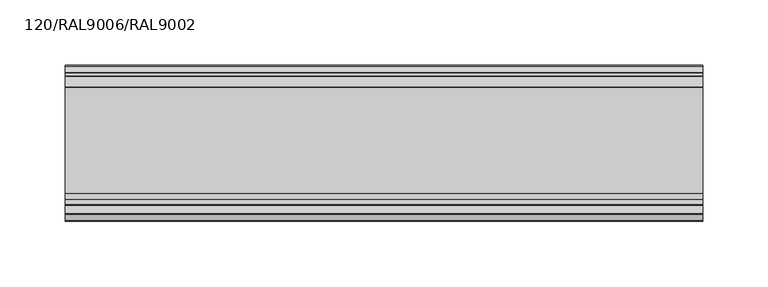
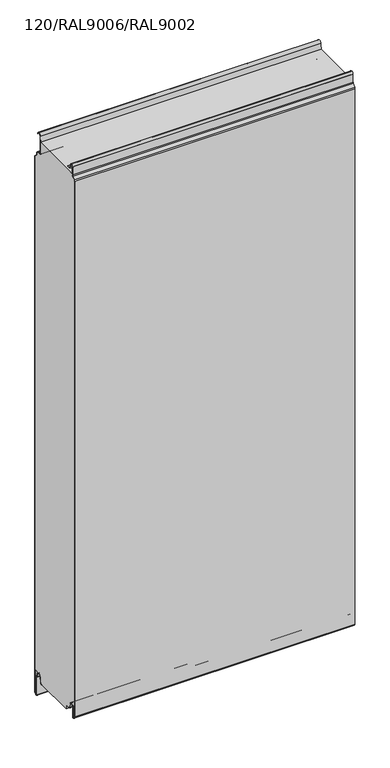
"""IFC4 building model written with IfcOpenShell, lengths in millimetres: plate geometry, TR_C_H_FHL_Panel : 120/RAL9006/RAL9002."""

from ifc_helpers import new_model, si_unit, point, frame, frame_2d, origin, place, context, project, spatial, polyline, circle_curve, trimmed, segment, composite_curve, outline, extrude, source, transform, mapped, element, save


def plate_120_ral9006_ral9002_c30a51ce(model_context):
    return source(origin(), model_context, "Body", "SweptSolid", [
        extrude(outline(composite_curve([segment(polyline([(-17.4455763, 1000.0), (-17.6, 998.2349288), (-17.6, 979.1)]), True, "CONTINUOUS"), segment(trimmed(circle_curve(frame_2d((-14.8, 979.1)), 2.8), [point((-17.6, 979.1))], [point((-14.8, 976.3))], True, "CARTESIAN"), True, "CONTINUOUS"), segment(polyline([(-14.8, 976.3), (-8.9, 976.3)]), True, "CONTINUOUS"), segment(trimmed(circle_curve(frame_2d((-8.9, 974.4)), 1.9), [point((-8.9, 976.3))], [point((-7.0, 974.4))], False, "CARTESIAN"), True, "CONTINUOUS"), segment(polyline([(-7.0, 974.4), (-7.0, 971.5838835)]), True, "CONTINUOUS"), segment(trimmed(circle_curve(frame_2d((-4.2, 971.5838835)), 2.8), [point((-7.0, 971.5838835))], [point((-6.179899, 969.6039845))], True, "CARTESIAN"), True, "CONTINUOUS"), segment(polyline([(-6.179899, 969.6039845), (-1.3564971, 964.7805826)]), True, "CONTINUOUS"), segment(trimmed(circle_curve(frame_2d((-2.7, 963.4370797)), 1.9), [point((-1.3564971, 964.7805826))], [point((-0.8, 963.4370797))], False, "CARTESIAN"), True, "CONTINUOUS"), segment(polyline([(-0.8, 963.4370797), (-0.8, 15.9993484), (-12.3520294, 15.9993484)]), True, "CONTINUOUS"), segment(trimmed(circle_curve(frame_2d((-12.3520294, 11.0993484)), 4.9), [point((-12.3520294, 15.9993484))], [point((-17.2333835, 11.5264116))], True, "CARTESIAN"), True, "CONTINUOUS"), segment(polyline([(-17.2333835, 11.5264116), (-18.0972969, 1.6518352)]), True, "CONTINUOUS"), segment(trimmed(circle_curve(frame_2d((-19.7908279, 1.8)), 1.7), [point((-18.0972969, 1.6518352))], [point((-19.7908279, 0.1))], False, "CARTESIAN"), True, "CONTINUOUS"), segment(polyline([(-19.7908279, 0.1), (-20.8, 0.0), (-94.86, 0.0), (-94.86, 7.9), (-102.3925589, 7.9)]), True, "CONTINUOUS"), segment(trimmed(circle_curve(frame_2d((-102.3925589, 10.85)), 2.95), [point((-102.3925589, 7.9))], [point((-105.2977418, 10.3377379))], False, "CARTESIAN"), True, "CONTINUOUS"), segment(polyline([(-105.2977418, 10.3377379), (-106.364567, 16.3880048)]), True, "CONTINUOUS"), segment(trimmed(circle_curve(frame_2d((-110.55, 15.65)), 4.25), [point((-106.364567, 16.3880048))], [point((-110.55, 19.9))], True, "CARTESIAN"), True, "CONTINUOUS"), segment(polyline([(-110.55, 19.9), (-119.2, 19.9), (-119.2, 989.8218254)]), True, "CONTINUOUS"), segment(trimmed(circle_curve(frame_2d((-117.0, 989.8218254)), 2.2), [point((-119.2, 989.8218254))], [point((-118.5556349, 991.3774603))], False, "CARTESIAN"), True, "CONTINUOUS"), segment(polyline([(-118.5556349, 991.3774603), (-114.1665476, 995.7665476)]), True, "CONTINUOUS"), segment(trimmed(circle_curve(frame_2d((-116.5, 998.1)), 3.3), [point((-114.1665476, 995.7665476))], [point((-113.2, 998.1))], True, "CARTESIAN"), True, "CONTINUOUS"), segment(polyline([(-113.2, 998.1), (-113.2, 1000.0), (-17.4455763, 1000.0)]), True, "CONTINUOUS")], self_intersect=False)), frame((-245.0, 0.0, 0.0), z_axis=(1.0, 0.0, 0.0), x_axis=(0.0, 1.0, 0.0)), (0.0, 0.0, 1.0), 490.0),
        extrude(outline(composite_curve([segment(polyline([(-0.8, -25.1006169), (-0.8, 963.4370797)]), True, "CONTINUOUS"), segment(trimmed(circle_curve(frame_2d((-2.7, 963.4370797)), 1.9), [point((-0.8, 963.4370797))], [point((-1.3564971, 964.7805826))], True, "CARTESIAN"), True, "CONTINUOUS"), segment(polyline([(-1.3564971, 964.7805826), (-6.179899, 969.6039845)]), True, "CONTINUOUS"), segment(trimmed(circle_curve(frame_2d((-4.2, 971.5838835)), 2.8), [point((-6.179899, 969.6039845))], [point((-7.0, 971.5838835))], False, "CARTESIAN"), True, "CONTINUOUS"), segment(polyline([(-7.0, 971.5838835), (-7.0, 974.4)]), True, "CONTINUOUS"), segment(trimmed(circle_curve(frame_2d((-8.9, 974.4)), 1.9), [point((-7.0, 974.4))], [point((-8.9, 976.3))], True, "CARTESIAN"), True, "CONTINUOUS"), segment(polyline([(-8.9, 976.3), (-14.8, 976.3)]), True, "CONTINUOUS"), segment(trimmed(circle_curve(frame_2d((-14.8, 979.1)), 2.8), [point((-14.8, 976.3))], [point((-17.6, 979.1))], False, "CARTESIAN"), True, "CONTINUOUS"), segment(polyline([(-17.6, 979.1), (-17.6, 998.2349288), (-16.5051936, 1010.748623)]), True, "CONTINUOUS"), segment(trimmed(circle_curve(frame_2d((-12.5204148, 1010.4)), 4.0), [point((-16.5051936, 1010.748623))], [point((-8.7383405, 1011.7022726))], False, "CARTESIAN"), True, "CONTINUOUS"), segment(polyline([(-8.7383405, 1011.7022726), (-8.4287263, 1010.8030877), (-9.1851412, 1010.5426332), (-9.4947554, 1011.4418181)]), True, "CONTINUOUS"), segment(trimmed(circle_curve(frame_2d((-12.5204148, 1010.4)), 3.2), [point((-9.4947554, 1011.4418181))], [point((-15.7082379, 1010.6788984))], True, "CARTESIAN"), True, "CONTINUOUS"), segment(polyline([(-15.7082379, 1010.6788984), (-16.8, 998.2), (-16.8, 979.1)]), True, "CONTINUOUS"), segment(trimmed(circle_curve(frame_2d((-14.8, 979.1)), 2.0), [point((-16.8, 979.1))], [point((-14.8, 977.1))], True, "CARTESIAN"), True, "CONTINUOUS"), segment(polyline([(-14.8, 977.1), (-8.9, 977.1)]), True, "CONTINUOUS"), segment(trimmed(circle_curve(frame_2d((-8.9, 974.4)), 2.7), [point((-8.9, 977.1))], [point((-6.2, 974.4))], False, "CARTESIAN"), True, "CONTINUOUS"), segment(polyline([(-6.2, 974.4), (-6.2, 971.5838835)]), True, "CONTINUOUS"), segment(trimmed(circle_curve(frame_2d((-4.2, 971.5838835)), 2.0), [point((-6.2, 971.5838835))], [point((-5.6142136, 970.1696699))], True, "CARTESIAN"), True, "CONTINUOUS"), segment(polyline([(-5.6142136, 970.1696699), (-0.7908117, 965.346268)]), True, "CONTINUOUS"), segment(trimmed(circle_curve(frame_2d((-2.7, 963.4370797)), 2.7), [point((-0.7908117, 965.346268))], [point((0.0, 963.4370797))], False, "CARTESIAN"), True, "CONTINUOUS"), segment(polyline([(0.0, 963.4370797), (0.0, -25.1006169)]), True, "CONTINUOUS"), segment(trimmed(circle_curve(frame_2d((-2.7, -25.1006169)), 2.7), [point((0.0, -25.1006169))], [point((-0.8586044, -27.0752719))], False, "CARTESIAN"), True, "CONTINUOUS"), segment(polyline([(-0.8586044, -27.0752719), (-2.8042031, -28.889572)]), True, "CONTINUOUS"), segment(trimmed(circle_curve(frame_2d((-4.1, -27.5)), 1.9), [point((-2.8042031, -28.889572))], [point((-6.0, -27.5))], False, "CARTESIAN"), True, "CONTINUOUS"), segment(polyline([(-6.0, -27.5), (-6.0, 4.8267282)]), True, "CONTINUOUS"), segment(trimmed(circle_curve(frame_2d((-8.5, 4.8267282)), 2.5), [point((-6.0, 4.8267282))], [point((-6.1362036, 5.6406486))], True, "CARTESIAN"), True, "CONTINUOUS"), segment(polyline([(-6.1362036, 5.6406486), (-8.4754033, 12.4341779)]), True, "CONTINUOUS"), segment(trimmed(circle_curve(frame_2d((-12.3520294, 11.0993484)), 4.1), [point((-8.4754033, 12.4341779))], [point((-16.4364277, 11.456687))], True, "CARTESIAN"), True, "CONTINUOUS"), segment(polyline([(-16.4364277, 11.456687), (-17.3003412, 1.5821106)]), True, "CONTINUOUS"), segment(trimmed(circle_curve(frame_2d((-19.7908279, 1.8)), 2.5), [point((-17.3003412, 1.5821106))], [point((-19.7908279, -0.7))], False, "CARTESIAN"), True, "CONTINUOUS"), segment(polyline([(-19.7908279, -0.7), (-20.8, -0.7), (-20.8, 0.1), (-19.7908279, 0.1)]), True, "CONTINUOUS"), segment(trimmed(circle_curve(frame_2d((-19.7908279, 1.8)), 1.7), [point((-19.7908279, 0.1))], [point((-18.0972969, 1.6518352))], True, "CARTESIAN"), True, "CONTINUOUS"), segment(polyline([(-18.0972969, 1.6518352), (-17.2333835, 11.5264116)]), True, "CONTINUOUS"), segment(trimmed(circle_curve(frame_2d((-12.3520294, 11.0993484)), 4.9), [point((-17.2333835, 11.5264116))], [point((-7.7189884, 12.6946324))], False, "CARTESIAN"), True, "CONTINUOUS"), segment(polyline([(-7.7189884, 12.6946324), (-5.3797887, 5.9011031)]), True, "CONTINUOUS"), segment(trimmed(circle_curve(frame_2d((-8.5, 4.8267282)), 3.3), [point((-5.3797887, 5.9011031))], [point((-5.2, 4.8267282))], False, "CARTESIAN"), True, "CONTINUOUS"), segment(polyline([(-5.2, 4.8267282), (-5.2, -27.5)]), True, "CONTINUOUS"), segment(trimmed(circle_curve(frame_2d((-4.1, -27.5)), 1.1), [point((-5.2, -27.5))], [point((-3.3498018, -28.3044891))], True, "CARTESIAN"), True, "CONTINUOUS"), segment(polyline([(-3.3498018, -28.3044891), (-1.4042031, -26.4901889)]), True, "CONTINUOUS"), segment(trimmed(circle_curve(frame_2d((-2.7, -25.1006169)), 1.9), [point((-1.4042031, -26.4901889))], [point((-0.8, -25.1006169))], True, "CARTESIAN"), True, "CONTINUOUS")], self_intersect=False)), frame((-245.0, 0.0, 0.0), z_axis=(1.0, 0.0, 0.0), x_axis=(0.0, 1.0, 0.0)), (0.0, 0.0, 1.0), 490.0),
        extrude(outline(composite_curve([segment(polyline([(-99.0, 7.1), (-102.3925589, 7.1)]), True, "CONTINUOUS"), segment(trimmed(circle_curve(frame_2d((-102.3925589, 10.85)), 3.75), [point((-102.3925589, 7.1))], [point((-106.085588, 10.1988193))], False, "CARTESIAN"), True, "CONTINUOUS"), segment(polyline([(-106.085588, 10.1988193), (-107.1524133, 16.2490862)]), True, "CONTINUOUS"), segment(trimmed(circle_curve(frame_2d((-110.55, 15.65)), 3.45), [point((-107.1524133, 16.2490862))], [point((-114.0, 15.65))], True, "CARTESIAN"), True, "CONTINUOUS"), segment(polyline([(-114.0, 15.65), (-114.0, -1.95)]), True, "CONTINUOUS"), segment(trimmed(circle_curve(frame_2d((-115.95, -1.95)), 1.95), [point((-114.0, -1.95))], [point((-117.3288582, -3.3288582))], False, "CARTESIAN"), True, "CONTINUOUS"), segment(polyline([(-117.3288582, -3.3288582), (-119.1945436, -1.4631728)]), True, "CONTINUOUS"), segment(trimmed(circle_curve(frame_2d((-117.25, 0.4813708)), 2.75), [point((-119.1945436, -1.4631728))], [point((-120.0, 0.4813708))], False, "CARTESIAN"), True, "CONTINUOUS"), segment(polyline([(-120.0, 0.4813708), (-120.0, 989.8218254)]), True, "CONTINUOUS"), segment(trimmed(circle_curve(frame_2d((-117.0, 989.8218254)), 3.0), [point((-120.0, 989.8218254))], [point((-119.1213203, 991.9431458))], False, "CARTESIAN"), True, "CONTINUOUS"), segment(polyline([(-119.1213203, 991.9431458), (-114.732233, 996.332233)]), True, "CONTINUOUS"), segment(trimmed(circle_curve(frame_2d((-116.5, 998.1)), 2.5), [point((-114.732233, 996.332233))], [point((-114.0, 998.1))], True, "CARTESIAN"), True, "CONTINUOUS"), segment(polyline([(-114.0, 998.1), (-114.0, 1012.85)]), True, "CONTINUOUS"), segment(trimmed(circle_curve(frame_2d((-110.75, 1012.85)), 3.25), [point((-114.0, 1012.85))], [point((-107.5493748, 1013.4143566))], False, "CARTESIAN"), True, "CONTINUOUS"), segment(polyline([(-107.5493748, 1013.4143566), (-106.8060618, 1009.1988193)]), True, "CONTINUOUS"), segment(trimmed(circle_curve(frame_2d((-103.1130328, 1009.85)), 3.75), [point((-106.8060618, 1009.1988193))], [point((-103.1130328, 1006.1))], True, "CARTESIAN"), True, "CONTINUOUS"), segment(polyline([(-103.1130328, 1006.1), (-99.0, 1006.1), (-99.0, 1005.3), (-103.1130328, 1005.3)]), True, "CONTINUOUS"), segment(trimmed(circle_curve(frame_2d((-103.1130328, 1009.85)), 4.55), [point((-103.1130328, 1005.3))], [point((-107.5939081, 1009.0599008))], False, "CARTESIAN"), True, "CONTINUOUS"), segment(polyline([(-107.5939081, 1009.0599008), (-108.337221, 1013.275438)]), True, "CONTINUOUS"), segment(trimmed(circle_curve(frame_2d((-110.75, 1012.85)), 2.45), [point((-108.337221, 1013.275438))], [point((-113.2, 1012.85))], True, "CARTESIAN"), True, "CONTINUOUS"), segment(polyline([(-113.2, 1012.85), (-113.2, 998.1)]), True, "CONTINUOUS"), segment(trimmed(circle_curve(frame_2d((-116.5, 998.1)), 3.3), [point((-113.2, 998.1))], [point((-114.1665476, 995.7665476))], False, "CARTESIAN"), True, "CONTINUOUS"), segment(polyline([(-114.1665476, 995.7665476), (-118.5556349, 991.3774603)]), True, "CONTINUOUS"), segment(trimmed(circle_curve(frame_2d((-117.0, 989.8218254)), 2.2), [point((-118.5556349, 991.3774603))], [point((-119.2, 989.8218254))], True, "CARTESIAN"), True, "CONTINUOUS"), segment(polyline([(-119.2, 989.8218254), (-119.2, 0.4813708)]), True, "CONTINUOUS"), segment(trimmed(circle_curve(frame_2d((-117.25, 0.4813708)), 1.95), [point((-119.2, 0.4813708))], [point((-118.6288582, -0.8974874))], True, "CARTESIAN"), True, "CONTINUOUS"), segment(polyline([(-118.6288582, -0.8974874), (-116.7631728, -2.7631728)]), True, "CONTINUOUS"), segment(trimmed(circle_curve(frame_2d((-115.95, -1.95)), 1.15), [point((-116.7631728, -2.7631728))], [point((-114.8, -1.95))], True, "CARTESIAN"), True, "CONTINUOUS"), segment(polyline([(-114.8, -1.95), (-114.8, 15.65)]), True, "CONTINUOUS"), segment(trimmed(circle_curve(frame_2d((-110.55, 15.65)), 4.25), [point((-114.8, 15.65))], [point((-106.364567, 16.3880048))], False, "CARTESIAN"), True, "CONTINUOUS"), segment(polyline([(-106.364567, 16.3880048), (-105.2977418, 10.3377379)]), True, "CONTINUOUS"), segment(trimmed(circle_curve(frame_2d((-102.3925589, 10.85)), 2.95), [point((-105.2977418, 10.3377379))], [point((-102.3925589, 7.9))], True, "CARTESIAN"), True, "CONTINUOUS"), segment(polyline([(-102.3925589, 7.9), (-99.0, 7.9), (-99.0, 7.1)]), True, "CONTINUOUS")], self_intersect=False)), frame((-245.0, 0.0, 0.0), z_axis=(1.0, 0.0, 0.0), x_axis=(0.0, 1.0, 0.0)), (0.0, 0.0, 1.0), 490.0),
    ])


if __name__ == "__main__":
    model = new_model("IFC4")
    model_context = context("Model", 3, world=origin())
    ifc_project = project(units=[si_unit("LENGTHUNIT", "METRE", prefix="MILLI")], contexts=[model_context])
    site = spatial("IfcSite", under=ifc_project)
    building = spatial("IfcBuilding", under=site)
    placement = place(None, origin())
    plate_120_ral9006_ral9002_shape = plate_120_ral9006_ral9002_c30a51ce(model_context)
    element("IfcPlate", 1, ObjectType="TR_C_H_FHL_Panel : 120/RAL9006/RAL9002", at=placement, inside=building, context=model_context, shape_type="MappedRepresentation", body=[
        mapped(plate_120_ral9006_ral9002_shape, transform((0.0, 0.0, 0.0), x_axis=(1.0, 0.0, 0.0), y_axis=(0.0, 1.0, 0.0), z_axis=(0.0, 0.0, 1.0))),
    ])
    save(model, "model.ifc")
